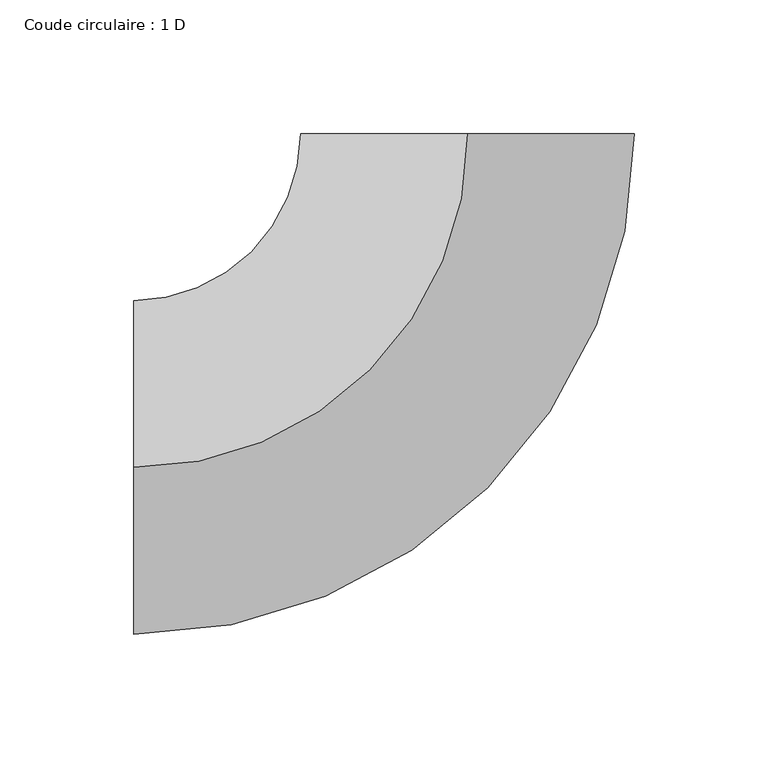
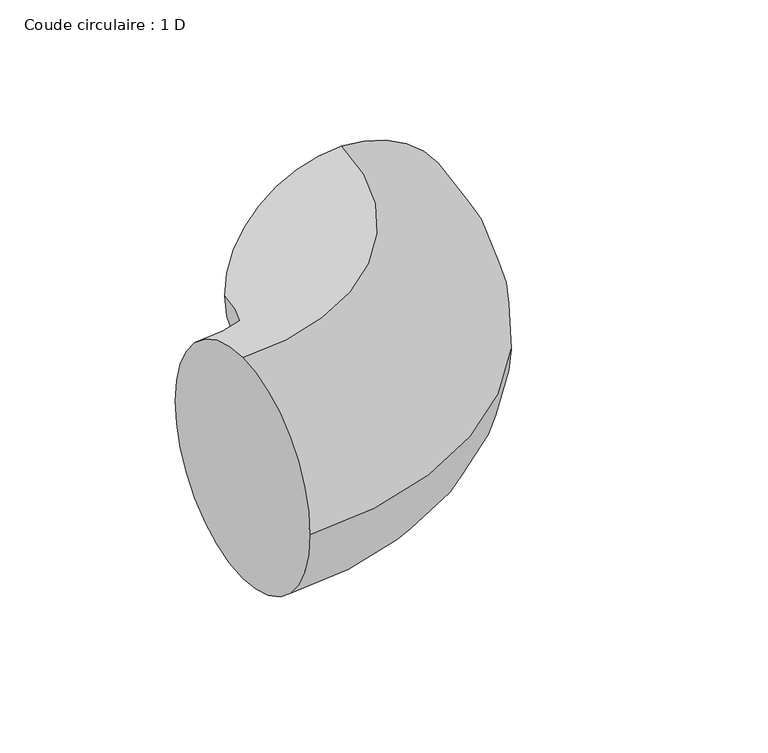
"""IFC4 building model written with IfcOpenShell, lengths in millimetres: duct fitting geometry, Coude circulaire : 1 D."""

from ifc_helpers import new_model, si_unit, point, frame, origin, place, context, project, spatial, circle_curve, ellipse_curve, trimmed, source, transform, mapped, element, save
from ifc_brep_helpers import plane_surface, revolved_surface, advanced_brep


def coude_circulaire_1_d_3569693a(model_context):
    return source(origin(), model_context, "Body", "AdvancedBrep", [
        advanced_brep(
        [(-124.9919578, 0.0, 62.5), (-124.9919578, 62.5, 0.0), (-124.9919578, 0.0, -62.5), (-124.9919578, -62.5, 0.0), (0.0080419, 124.9919576, 62.5), (62.5080418, 124.9879364, 0.0), (0.0080419, 124.9919576, -62.5), (-62.491958, 124.9959788, 0.0)],
        [
            (0, 1, circle_curve(frame((-124.9919578, 0.0, 0.0), z_axis=(-1.0, 0.0, 0.0), x_axis=(0.0, 1.0, 0.0)), 62.5)),
            (1, 2, circle_curve(frame((-124.9919578, 0.0, 0.0), z_axis=(-1.0, 0.0, 0.0), x_axis=(0.0, 1.0, 0.0)), 62.5)),
            (2, 3, circle_curve(frame((-124.9919578, 0.0, 0.0), z_axis=(-1.0, 0.0, 0.0), x_axis=(0.0, 1.0, 0.0)), 62.5)),
            (3, 0, circle_curve(frame((-124.9919578, 0.0, 0.0), z_axis=(-1.0, 0.0, 0.0), x_axis=(0.0, 1.0, 0.0)), 62.5)),
            (4, 5, circle_curve(frame((0.0080419, 124.9919576, 0.0), z_axis=(6.433929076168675e-05, 0.9999999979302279, 0.0), x_axis=(-0.9999999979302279, 6.433929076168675e-05, 0.0)), 62.5)),
            (5, 6, circle_curve(frame((0.0080419, 124.9919576, 0.0), z_axis=(6.433929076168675e-05, 0.9999999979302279, 0.0), x_axis=(-0.9999999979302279, 6.433929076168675e-05, 0.0)), 62.5)),
            (6, 7, circle_curve(frame((0.0080419, 124.9919576, 0.0), z_axis=(6.433929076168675e-05, 0.9999999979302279, 0.0), x_axis=(-0.9999999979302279, 6.433929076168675e-05, 0.0)), 62.5)),
            (7, 4, circle_curve(frame((0.0080419, 124.9919576, 0.0), z_axis=(6.433929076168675e-05, 0.9999999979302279, 0.0), x_axis=(-0.9999999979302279, 6.433929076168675e-05, 0.0)), 62.5)),
            (7, 1, circle_curve(frame((-124.9919578, 125.0, 0.0), z_axis=(0.0, 0.0, -1.0), x_axis=(0.0, -1.0, 0.0)), 62.5)),
            (0, 4, circle_curve(frame((-124.9919578, 125.0, 62.5), z_axis=(0.0, 0.0, 1.0), x_axis=(0.0, -1.0, 0.0)), 125.0)),
            (6, 2, circle_curve(frame((-124.9919578, 125.0, -62.5), z_axis=(0.0, 0.0, -1.0), x_axis=(0.0, -1.0, 0.0)), 125.0)),
            (5, 3, circle_curve(frame((-124.9919578, 125.0, 0.0), z_axis=(0.0, 0.0, -1.0), x_axis=(0.0, -1.0, 0.0)), 187.5)),
        ],
        [
            plane_surface(frame((-124.9919578, 0.0, 0.0), z_axis=(-1.0, 0.0, 0.0), x_axis=(0.0, 0.0, 1.0))),
            plane_surface(frame((0.0080419, 124.9919576, 0.0), z_axis=(6.433929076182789e-05, 0.9999999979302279, 0.0), x_axis=(0.0, 0.0, 1.0))),
            revolved_surface(trimmed(ellipse_curve(frame((-124.9919578, 0.0, 0.0), z_axis=(-1.0, 0.0, 0.0), x_axis=(0.0, 1.0, 0.0)), 62.5, 62.5), [point((-124.9919578, 0.0, 62.5))], [point((-124.9919578, 62.5, 0.0))], True, "CARTESIAN"), (-124.9919578, 125.0, 0.0), (0.0, 0.0, 1.0)),
            revolved_surface(trimmed(ellipse_curve(frame((-124.9919578, 0.0, 0.0), z_axis=(-1.0, 0.0, 0.0), x_axis=(0.0, 1.0, 0.0)), 62.5, 62.5), [point((-124.9919578, 62.5, 0.0))], [point((-124.9919578, 0.0, -62.5))], True, "CARTESIAN"), (-124.9919578, 125.0, 0.0), (0.0, 0.0, 1.0)),
            revolved_surface(trimmed(ellipse_curve(frame((-124.9919578, 0.0, 0.0), z_axis=(-1.0, 0.0, 0.0), x_axis=(0.0, 1.0, 0.0)), 62.5, 62.5), [point((-124.9919578, 0.0, -62.5))], [point((-124.9919578, -62.5, 0.0))], True, "CARTESIAN"), (-124.9919578, 125.0, 0.0), (0.0, 0.0, 1.0)),
            revolved_surface(trimmed(ellipse_curve(frame((-124.9919578, 0.0, 0.0), z_axis=(-1.0, 0.0, 0.0), x_axis=(0.0, 1.0, 0.0)), 62.5, 62.5), [point((-124.9919578, -62.5, 0.0))], [point((-124.9919578, 0.0, 62.5))], True, "CARTESIAN"), (-124.9919578, 125.0, 0.0), (0.0, 0.0, 1.0)),
        ],
        [
            (0, [[1, 2, 3, 4]]),
            (1, [[5, 6, 7, 8]]),
            (2, [[9, -1, 10, -8]]),
            (3, [[11, -2, -9, -7]]),
            (4, [[12, -3, -11, -6]]),
            (5, [[-10, -4, -12, -5]]),
        ],
    ),
    ])


if __name__ == "__main__":
    model = new_model("IFC4")
    model_context = context("Model", 3, world=origin())
    ifc_project = project(units=[si_unit("LENGTHUNIT", "METRE", prefix="MILLI")], contexts=[model_context])
    site = spatial("IfcSite", under=ifc_project)
    building = spatial("IfcBuilding", under=site)
    placement = place(None, origin())
    coude_circulaire_1_d_shape = coude_circulaire_1_d_3569693a(model_context)
    element("IfcDuctFitting", 1, ObjectType="Coude circulaire : 1 D", at=placement, inside=building, context=model_context, shape_type="MappedRepresentation", body=[
        mapped(coude_circulaire_1_d_shape, transform((0.0, 0.0, 0.0), x_axis=(1.0, 0.0, 0.0), y_axis=(0.0, 1.0, 0.0), z_axis=(0.0, 0.0, 1.0))),
    ])
    save(model, "model.ifc")
